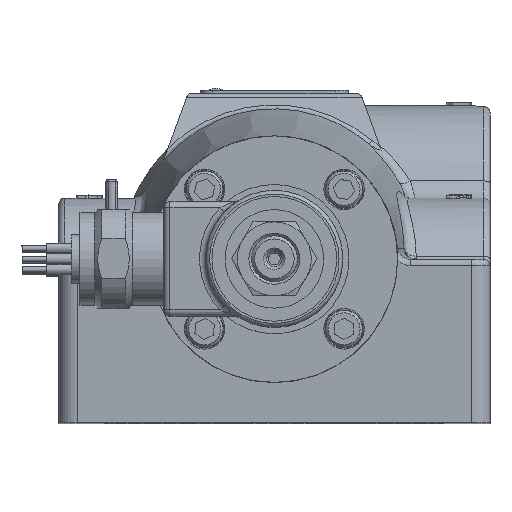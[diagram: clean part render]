
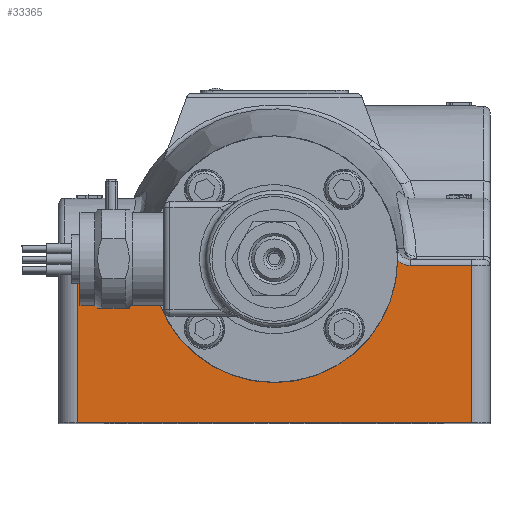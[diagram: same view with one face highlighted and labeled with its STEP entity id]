
A CAD part, top view. The second image highlights one B-rep face of the part: STEP entity #33365.
In plain terms, the highlighted planar face has unit normal (0, 0, 1).
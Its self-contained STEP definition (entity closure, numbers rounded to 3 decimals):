
#1008=B_SPLINE_CURVE_WITH_KNOTS('',3,(#63089,#63090,#63091,#63092,#63093),
 .UNSPECIFIED.,.F.,.F.,(4,1,4),(0.,0.291,0.347),
 .UNSPECIFIED.);
#1015=B_SPLINE_CURVE_WITH_KNOTS('',3,(#63274,#63275,#63276,#63277),
 .UNSPECIFIED.,.F.,.F.,(4,4),(0.356,0.703),
 .UNSPECIFIED.);
#2862=LINE('',#58289,#4391);
#2872=LINE('',#58337,#4401);
#3022=LINE('',#62983,#4551);
#3024=LINE('',#63157,#4553);
#3032=LINE('',#63396,#4561);
#4391=VECTOR('',#42561,10.16);
#4401=VECTOR('',#42595,4.047);
#4551=VECTOR('',#43895,1.583);
#4553=VECTOR('',#43903,1.583);
#4561=VECTOR('',#44001,4.047);
#7890=FACE_OUTER_BOUND('',#10430,.T.);
#10430=EDGE_LOOP('',(#27470,#27471,#27472,#27473,#27474,#27475,#27476,#27477));
#12537=CIRCLE('',#36614,3.178);
#14593=VERTEX_POINT('',#58274);
#14600=VERTEX_POINT('',#58287);
#14617=VERTEX_POINT('',#58336);
#14934=VERTEX_POINT('',#62979);
#14938=VERTEX_POINT('',#63061);
#14943=VERTEX_POINT('',#63150);
#14946=VERTEX_POINT('',#63155);
#14970=VERTEX_POINT('',#63253);
#18261=EDGE_CURVE('',#14600,#14593,#2862,.T.);
#18281=EDGE_CURVE('',#14593,#14617,#2872,.T.);
#18945=EDGE_CURVE('',#14617,#14934,#3022,.T.);
#18950=EDGE_CURVE('',#14934,#14938,#1008,.T.);
#18959=EDGE_CURVE('',#14946,#14943,#3024,.T.);
#18996=EDGE_CURVE('',#14970,#14946,#1015,.T.);
#19007=EDGE_CURVE('',#14943,#14600,#3032,.T.);
#19067=EDGE_CURVE('',#14938,#14970,#12537,.T.);
#27470=ORIENTED_EDGE('',*,*,#18261,.F.);
#27471=ORIENTED_EDGE('',*,*,#19007,.F.);
#27472=ORIENTED_EDGE('',*,*,#18959,.F.);
#27473=ORIENTED_EDGE('',*,*,#18996,.F.);
#27474=ORIENTED_EDGE('',*,*,#19067,.F.);
#27475=ORIENTED_EDGE('',*,*,#18950,.F.);
#27476=ORIENTED_EDGE('',*,*,#18945,.F.);
#27477=ORIENTED_EDGE('',*,*,#18281,.F.);
#29699=PLANE('',#36765);
#33365=ADVANCED_FACE('',(#7890),#29699,.T.);
#36614=AXIS2_PLACEMENT_3D('',#64040,#44071,#44072);
#36765=AXIS2_PLACEMENT_3D('',#79143,#44601,#44602);
#42561=DIRECTION('',(-1.,0.,0.));
#42595=DIRECTION('',(0.,1.,0.));
#43895=DIRECTION('',(1.,0.,0.));
#43903=DIRECTION('',(1.,0.,0.));
#44001=DIRECTION('',(0.,-1.,0.));
#44071=DIRECTION('center_axis',(0.,0.,1.));
#44072=DIRECTION('ref_axis',(-1.,0.,0.));
#44601=DIRECTION('center_axis',(0.,0.,1.));
#44602=DIRECTION('ref_axis',(1.,0.,0.));
#58274=CARTESIAN_POINT('',(-5.08,-4.206,8.652));
#58287=CARTESIAN_POINT('',(5.08,-4.206,8.652));
#58289=CARTESIAN_POINT('',(0.,-4.206,8.652));
#58336=CARTESIAN_POINT('',(-5.08,-0.159,8.652));
#58337=CARTESIAN_POINT('',(-5.08,-3.215,8.652));
#62979=CARTESIAN_POINT('',(-3.497,-0.159,8.652));
#62983=CARTESIAN_POINT('',(0.,-0.159,8.652));
#63061=CARTESIAN_POINT('',(-3.177,-0.037,8.652));
#63089=CARTESIAN_POINT('Ctrl Pts',(-3.497,-0.159,
8.652));
#63090=CARTESIAN_POINT('Ctrl Pts',(-3.4,-0.159,
8.652));
#63091=CARTESIAN_POINT('Ctrl Pts',(-3.283,-0.122,
8.652));
#63092=CARTESIAN_POINT('Ctrl Pts',(-3.192,-0.05,
8.652));
#63093=CARTESIAN_POINT('Ctrl Pts',(-3.178,-0.037,
8.652));
#63150=CARTESIAN_POINT('',(5.08,-0.159,8.652));
#63155=CARTESIAN_POINT('',(3.497,-0.159,8.652));
#63157=CARTESIAN_POINT('',(0.,-0.159,8.652));
#63253=CARTESIAN_POINT('',(3.177,-0.037,8.652));
#63274=CARTESIAN_POINT('Ctrl Pts',(3.178,-0.037,
8.652));
#63275=CARTESIAN_POINT('Ctrl Pts',(3.265,-0.114,
8.652));
#63276=CARTESIAN_POINT('Ctrl Pts',(3.381,-0.159,
8.652));
#63277=CARTESIAN_POINT('Ctrl Pts',(3.497,-0.159,
8.652));
#63396=CARTESIAN_POINT('',(5.08,-3.215,8.652));
#64040=CARTESIAN_POINT('Origin',(0.,0.,8.652));
#79143=CARTESIAN_POINT('Origin',(0.,-4.286,8.652));
